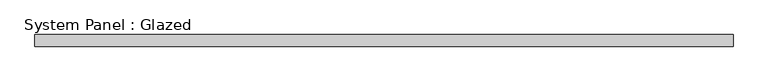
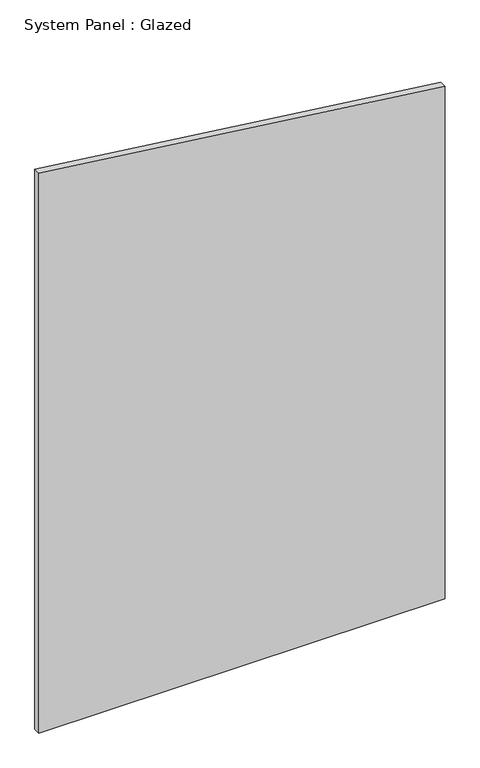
"""IFC4 building model written with IfcOpenShell, lengths in millimetres: plate geometry, System Panel : Glazed."""

from ifc_helpers import new_model, si_unit, frame, origin, place, context, project, spatial, polyline, outline, extrude, source, transform, mapped, element, save


def system_panel_glazed_63b6f638(model_context):
    return source(origin(), model_context, "Body", "SweptSolid", [
        extrude(outline(polyline([(0.0, -726.9631579), (0.0, 726.9631579), (1938.9364135, 726.9631579), (2117.4561178, -726.9631579), (0.0, -726.9631579)])), frame((0.0, 24.5, 0.0), z_axis=(0.0, 1.0, 0.0), x_axis=(0.0, 0.0, 1.0)), (0.0, 0.0, 1.0), 25.0),
    ])


if __name__ == "__main__":
    model = new_model("IFC4")
    model_context = context("Model", 3, world=origin())
    ifc_project = project(units=[si_unit("LENGTHUNIT", "METRE", prefix="MILLI")], contexts=[model_context])
    site = spatial("IfcSite", under=ifc_project)
    building = spatial("IfcBuilding", under=site)
    placement = place(None, origin())
    system_panel_glazed_shape = system_panel_glazed_63b6f638(model_context)
    element("IfcPlate", 1, ObjectType="System Panel : Glazed", at=placement, inside=building, context=model_context, shape_type="MappedRepresentation", body=[
        mapped(system_panel_glazed_shape, transform((0.0, 0.0, 0.0), x_axis=(1.0, 0.0, 0.0), y_axis=(0.0, 1.0, 0.0), z_axis=(0.0, 0.0, 1.0))),
    ])
    save(model, "model.ifc")
